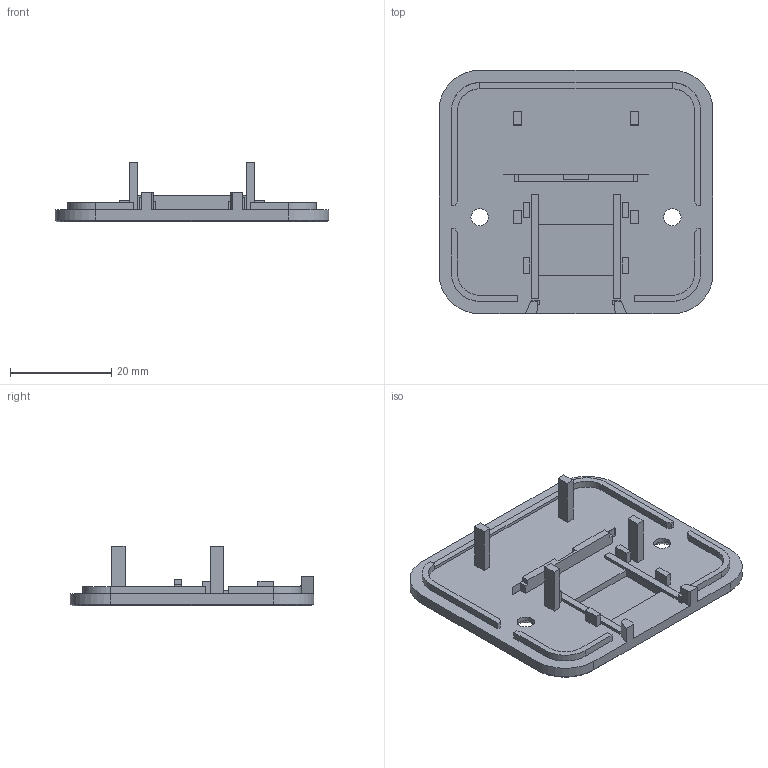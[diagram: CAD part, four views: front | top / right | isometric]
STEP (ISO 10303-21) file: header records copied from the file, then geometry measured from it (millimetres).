
FILE_DESCRIPTION(('Open CASCADE Model'),'2;1');
FILE_NAME('Open CASCADE Shape Model','2026-10-06T21:52:01',('Author'),( 'Open CASCADE'),'Open CASCADE STEP processor 7.9','Open CASCADE 7.9' ,'Unknown');
FILE_SCHEMA(('AUTOMOTIVE_DESIGN { 1 0 10303 214 1 1 1 1 }'));
Length unit declared in the file: millimetre
Products named in the file (1): Open CASCADE STEP translator 7.9 2
Bounding box: 54 x 48 x 11.8 mm (x, y, z)
Volume: 6336.7 mm3; surface area: 6580.8 mm2
Topology: 1 solids, 1 shells, 157 faces, 412 edges, 270 vertices
Faces by surface type: plane 133, cylinder 18, cone 6
Full cylindrical faces by diameter (mm): 3.4 x2
Entity records: 9995 total; most frequent: CARTESIAN_POINT 1947, DIRECTION 1395, LINE 963, VECTOR 963, ORIENTED_EDGE 824, PCURVE 824, DEFINITIONAL_REPRESENTATION 824, EDGE_CURVE 412
